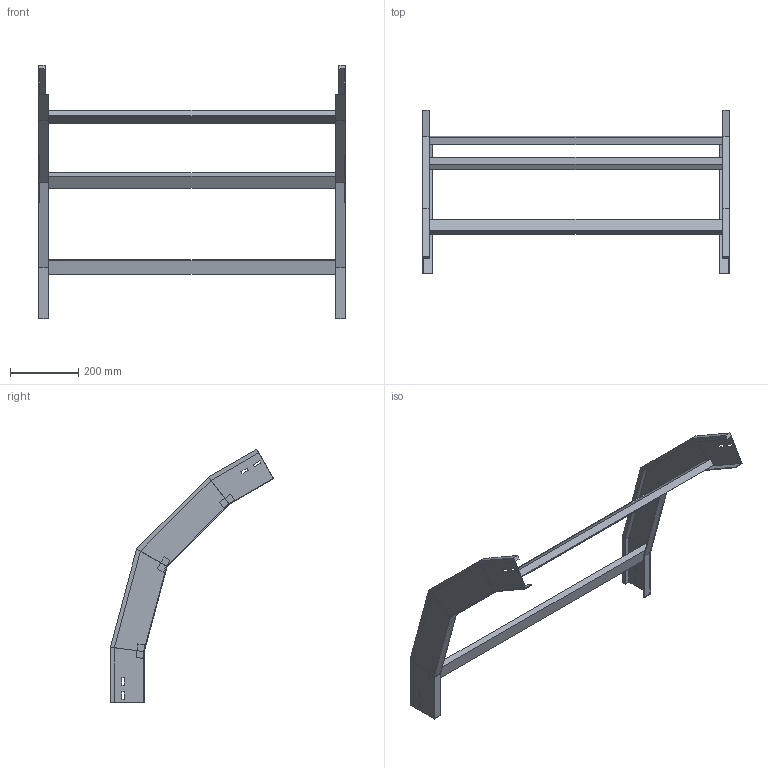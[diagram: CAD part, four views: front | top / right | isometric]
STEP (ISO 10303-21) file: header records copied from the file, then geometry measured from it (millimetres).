
FILE_DESCRIPTION (( 'STEP AP214' ), '1' );
FILE_NAME ('41B5D900.step', '2025-02-21T14:56:23', ( '' ), ( '' ), 'SwSTEP 2.0', 'SolidWorks 2023', '' );
FILE_SCHEMA (( 'AUTOMOTIVE_DESIGN' ));
Length unit declared in the file: millimetre
Products named in the file (3): TRAVERSINO_900; 41B5D900; LONGH.DISCESA_60°_H100_R500
Assembly tree (5 placements, depth 2):
  41B5D900
    LONGH.DISCESA_60°_H100_R500  x2
    TRAVERSINO_900  x3
Bounding box: 900 x 480.08 x 744.92 mm (x, y, z)
Volume: 2957636.7 mm3; surface area: 826409.5 mm2
Topology: 5 solids, 5 shells, 118 faces, 276 edges, 168 vertices
Faces by surface type: plane 118
Entity records: 1672 total; most frequent: CARTESIAN_POINT 276, ORIENTED_EDGE 264, DIRECTION 260, EDGE_CURVE 132, LINE 132, VECTOR 132, VERTEX_POINT 80, EDGE_LOOP 64
